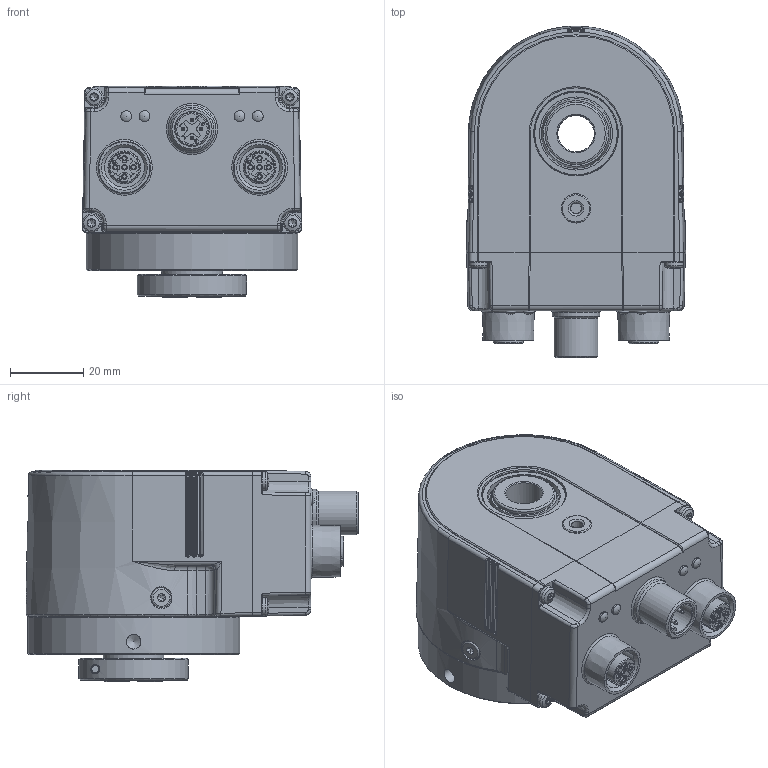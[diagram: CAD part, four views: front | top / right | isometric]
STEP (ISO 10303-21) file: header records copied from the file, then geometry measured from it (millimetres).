
FILE_DESCRIPTION( ( 'Unknown' ), '1' );
FILE_NAME( '//emea.baumernet.org/de01apps/Konstr_Zchng/3D_Zeichnung/Produkte/EAL580_neu_Feldbus/Marketing/Step_fuer_Homepage/EAL580-TNA.4WPT.xxxx0.A.stp', 'Unknown', ( 'Unknown' ), ( 'Unknown' ), 'PSStep 15.0.49', 'Unknown', ' ' );
FILE_SCHEMA( ( 'AUTOMOTIVE_DESIGN { 1 0 10303 214 1 1 1 1 }' ) );
Length unit declared in the file: millimetre
Products named in the file (1): 11159055_PhoenixContact_1411996
Bounding box: 60 x 90.86 x 58 mm (x, y, z)
Volume: 192021.3 mm3; surface area: 29957 mm2
Topology: 1 solids, 1 shells, 1220 faces, 3209 edges, 2023 vertices
Faces by surface type: plane 637, cylinder 290, cone 127, bspline 71, torus 69, sphere 26
Full cylindrical faces by diameter (mm): 1 x4, 1.05 x8, 1.1 x2, 1.7 x2, 2.459 x4, 2.5 x3, 3 x5, 3.2 x1, 4 x1, 5 x4, 5.5 x4, 6 x3, 7.5 x2, 8 x2, 8.2 x2, 8.9 x2, 9 x2, 9.45 x1, 9.6 x1, 10 x1, 10.917 x2, 12 x1, 13 x1, 16.2 x1, 16.7 x1, 16.95 x1, 17 x2, 20 x1, 20.2 x1, 23 x1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
Entity records: 54092 total; most frequent: CARTESIAN_POINT 15910, ORIENTED_EDGE 5812, DIRECTION 5749, EDGE_CURVE 2906, AXIS2_PLACEMENT_3D 2010, VERTEX_POINT 1939, LINE 1729, VECTOR 1729
